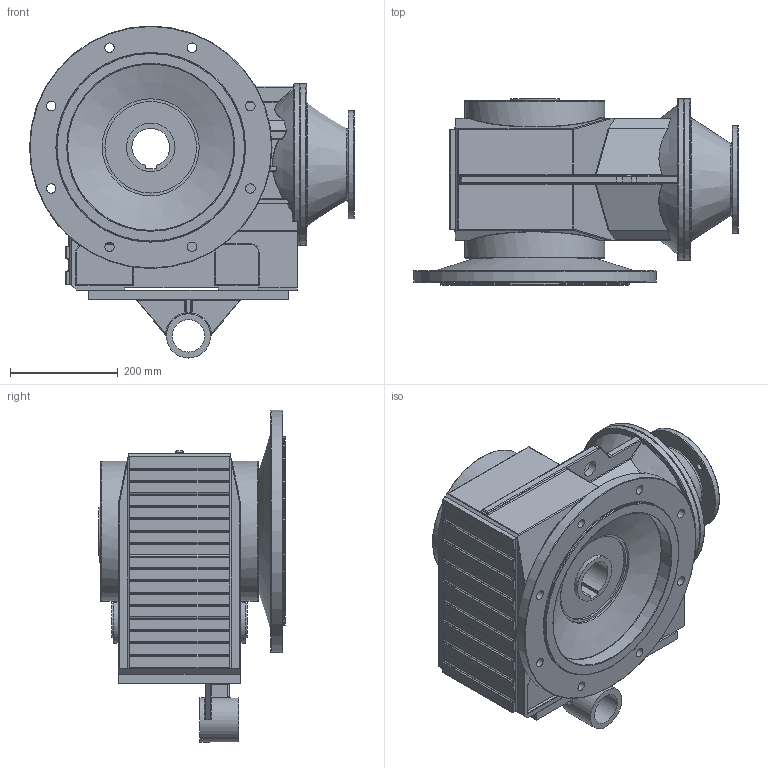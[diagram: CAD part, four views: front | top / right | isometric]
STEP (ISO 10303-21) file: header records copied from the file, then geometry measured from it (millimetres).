
FILE_DESCRIPTION((''),'2;1');
FILE_NAME('F:\PAWEŁ\ZLECENIA\2011 DualSystem\Przekładnie DK\001 Modele\DKAB90_\DK_90_STEP\DK_A_90_AF_AT_90_B5_L57,5.stp','2012-06-26T19:16:40',('admin'),(''),'Autodesk Inventor 2009','Autodesk Inventor 2009','');
FILE_SCHEMA(('AUTOMOTIVE_DESIGN { 1 0 10303 214 1 1 1 1 }'));
Length unit declared in the file: millimetre
Products named in the file (5): DK_A_90_AF_AT_90_B5_L57,5 (Poziom szczegółów1); DK_A_90; 90_B5_L57,5; AF_F_90; AT_90
Assembly tree (4 placements, depth 2):
  DK_A_90_AF_AT_90_B5_L57,5 (Poziom szczegółów1)
    DK_A_90
    90_B5_L57,5
    AF_F_90
    AT_90
Bounding box: 603 x 346.5 x 616 mm (x, y, z)
Volume: 43860002 mm3; surface area: 1781427.9 mm2
Topology: 4 solids, 4 shells, 636 faces, 1525 edges, 906 vertices
Faces by surface type: cylinder 248, plane 149, bspline 132, torus 93, sphere 8, cone 6
Full cylindrical faces by diameter (mm): 17.294 x4, 20 x4, 30 x1, 44 x1, 60 x1, 65 x1, 82 x1, 90 x1, 115.692 x1, 130 x1, 170 x1, 180 x1, 200 x1, 210 x1, 300 x2, 310 x1, 350 x1, 450 x1
Entity records: 24063 total; most frequent: CARTESIAN_POINT 9741, DIRECTION 2978, ORIENTED_EDGE 2880, EDGE_CURVE 1440, AXIS2_PLACEMENT_3D 1196, VERTEX_POINT 897, EDGE_LOOP 761, FACE_OUTER_BOUND 636
